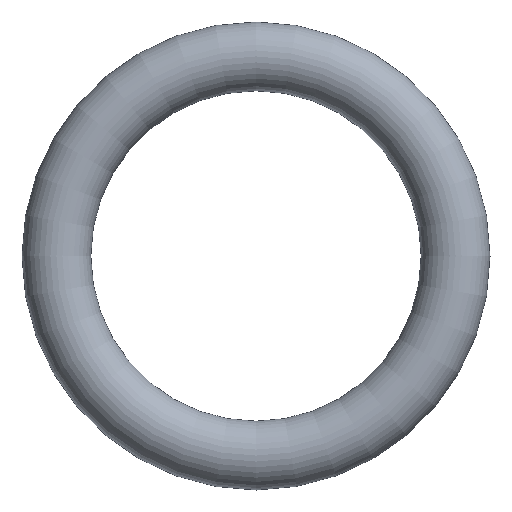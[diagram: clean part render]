
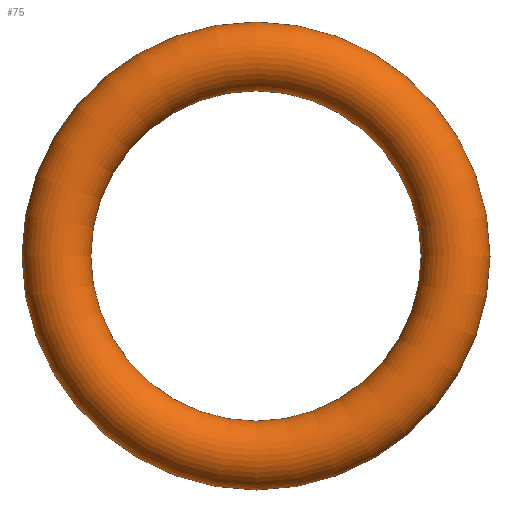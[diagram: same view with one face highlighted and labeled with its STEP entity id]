
A CAD part, front view. The second image highlights one B-rep face of the part: STEP entity #75.
In plain terms, the highlighted toroidal (fillet/blend) face has major radius 7.25 mm and minor radius 1.25 mm.
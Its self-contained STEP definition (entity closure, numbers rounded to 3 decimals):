
#75 = ADVANCED_FACE( '', ( #77 ), #78, .T. );
#77 = FACE_BOUND( '', #79, .T. );
#78 = TOROIDAL_SURFACE( '', #80, 7.25, 1.25 );
#79 = VERTEX_LOOP( '', #81 );
#80 = AXIS2_PLACEMENT_3D( '', #82, #83, #84 );
#81 = VERTEX_POINT( '', #85 );
#82 = CARTESIAN_POINT( '', ( 0., 0., 0. ) );
#83 = DIRECTION( '', ( 0., -1., 0. ) );
#84 = DIRECTION( '', ( 0., 0., -1. ) );
#85 = CARTESIAN_POINT( '', ( 0., 0., -8.5 ) );
